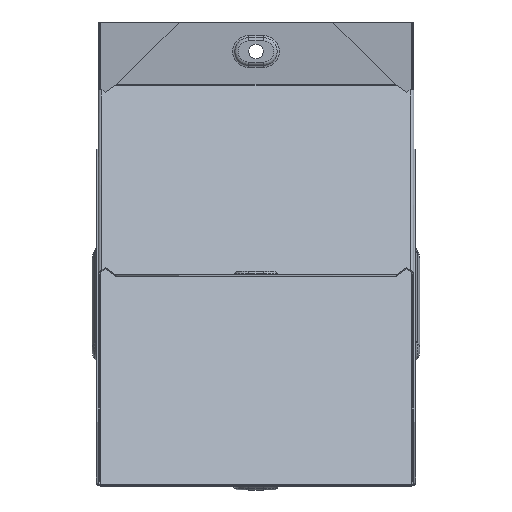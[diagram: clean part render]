
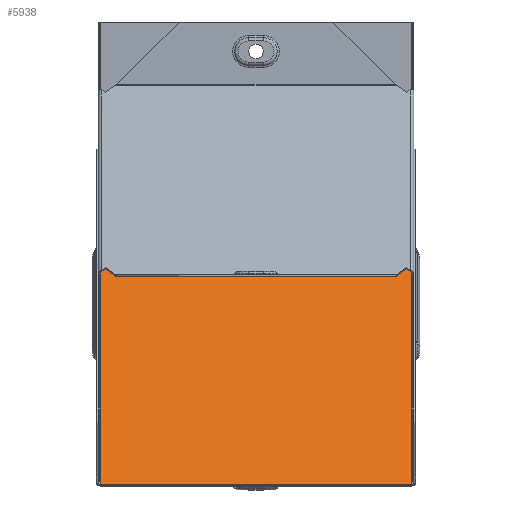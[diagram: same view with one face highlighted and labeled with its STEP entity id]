
A CAD part, front view. The second image highlights one B-rep face of the part: STEP entity #5938.
In plain terms, the highlighted planar face has unit normal (0, -0.707, 0.707).
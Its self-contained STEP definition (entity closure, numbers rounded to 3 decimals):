
#373 = LINE ( 'NONE', #7513, #2942 ) ;
#638 = VERTEX_POINT ( 'NONE', #1169 ) ;
#1030 = CARTESIAN_POINT ( 'NONE',  ( 74., 85.718, -85.718 ) ) ;
#1169 = CARTESIAN_POINT ( 'NONE',  ( -74., 11.73, -159.707 ) ) ;
#1524 = DIRECTION ( 'NONE',  ( 0., -0.707, -0.707 ) ) ;
#1584 = DIRECTION ( 'NONE',  ( 0., 0.707, 0.707 ) ) ;
#1616 = EDGE_CURVE ( 'NONE', #8098, #638, #373, .T. ) ;
#2103 = CARTESIAN_POINT ( 'NONE',  ( 74., 11.73, -159.707 ) ) ;
#2182 = DIRECTION ( 'NONE',  ( -1., 0., 0. ) ) ;
#2463 = ORIENTED_EDGE ( 'NONE', *, *, #2474, .T. ) ;
#2474 = EDGE_CURVE ( 'NONE', #3191, #4461, #7107, .T. ) ;
#2703 = VECTOR ( 'NONE', #6111, 1000. ) ;
#2743 = CARTESIAN_POINT ( 'NONE',  ( 74., 159.707, -11.73 ) ) ;
#2878 = AXIS2_PLACEMENT_3D ( 'NONE', #7871, #4704, #1584 ) ;
#2942 = VECTOR ( 'NONE', #3102, 1000. ) ;
#3102 = DIRECTION ( 'NONE',  ( -1., 0., 0. ) ) ;
#3191 = VERTEX_POINT ( 'NONE', #6432 ) ;
#3238 = VECTOR ( 'NONE', #2182, 1000. ) ;
#3302 = LINE ( 'NONE', #3466, #4190 ) ;
#3466 = CARTESIAN_POINT ( 'NONE',  ( -74., 85.718, -85.718 ) ) ;
#3674 = EDGE_LOOP ( 'NONE', ( #4536, #7310, #3754, #2463 ) ) ;
#3754 = ORIENTED_EDGE ( 'NONE', *, *, #3856, .F. ) ;
#3856 = EDGE_CURVE ( 'NONE', #3191, #8098, #7577, .T. ) ;
#4190 = VECTOR ( 'NONE', #1524, 1000. ) ;
#4461 = VERTEX_POINT ( 'NONE', #7869 ) ;
#4536 = ORIENTED_EDGE ( 'NONE', *, *, #4917, .T. ) ;
#4704 = DIRECTION ( 'NONE',  ( 0., 0.707, -0.707 ) ) ;
#4917 = EDGE_CURVE ( 'NONE', #4461, #638, #3302, .T. ) ;
#5938 = ADVANCED_FACE ( 'NONE', ( #7856 ), #6021, .F. ) ;
#6021 = PLANE ( 'NONE',  #2878 ) ;
#6111 = DIRECTION ( 'NONE',  ( 0., -0.707, -0.707 ) ) ;
#6432 = CARTESIAN_POINT ( 'NONE',  ( 74., 159.707, -11.73 ) ) ;
#7107 = LINE ( 'NONE', #2743, #3238 ) ;
#7310 = ORIENTED_EDGE ( 'NONE', *, *, #1616, .F. ) ;
#7513 = CARTESIAN_POINT ( 'NONE',  ( 74., 11.73, -159.707 ) ) ;
#7577 = LINE ( 'NONE', #1030, #2703 ) ;
#7856 = FACE_OUTER_BOUND ( 'NONE', #3674, .T. ) ;
#7869 = CARTESIAN_POINT ( 'NONE',  ( -74., 159.707, -11.73 ) ) ;
#7871 = CARTESIAN_POINT ( 'NONE',  ( 74., 85.718, -85.718 ) ) ;
#8098 = VERTEX_POINT ( 'NONE', #2103 ) ;
